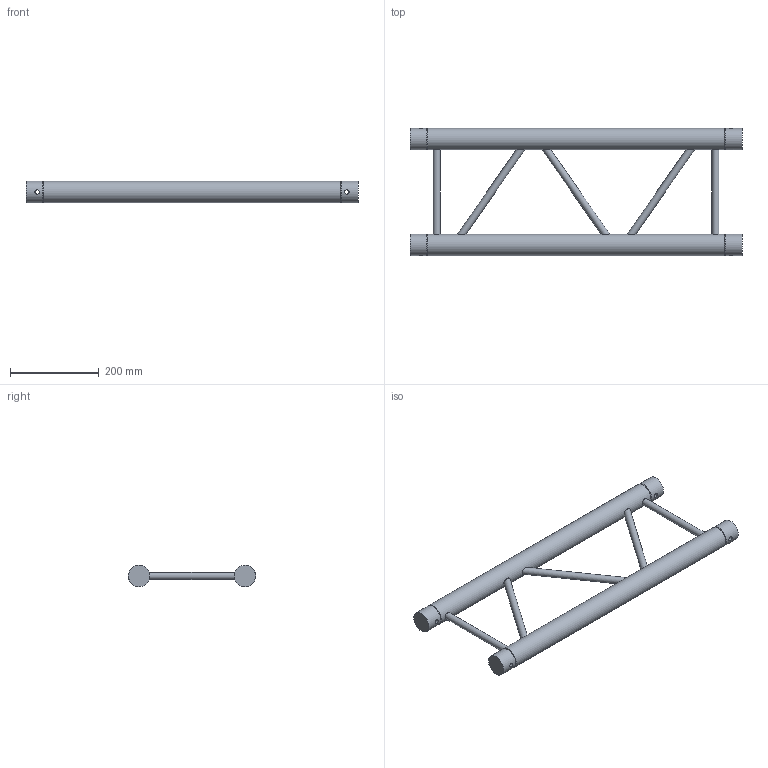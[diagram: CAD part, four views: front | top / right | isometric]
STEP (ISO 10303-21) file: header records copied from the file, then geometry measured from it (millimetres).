
FILE_DESCRIPTION(/* description */ (''),/* implementation_level */ '2;1');
FILE_NAME(/* name */ 'C:\Users\stephan\Desktop\Nieuwe map\H30L\111050040.stp',/* time_stamp */ '2016-09-12T11:47:19+02:00',/* author */ ('Stephan'),/* organization */ (''),/* preprocessor_version */ 'ST-DEVELOPER v15.6',/* originating_system */ 'Autodesk Inventor 2015',/* authorisation */ '');
FILE_SCHEMA (('AUTOMOTIVE_DESIGN { 1 0 10303 214 3 1 1 }'));
Length unit declared in the file: millimetre
Products named in the file (1): 160026966
Bounding box: 750 x 287.3 x 48.3 mm (x, y, z)
Volume: 1118245.6 mm3; surface area: 487142 mm2
Topology: 7 solids, 9 shells, 55 faces, 94 edges, 61 vertices
Faces by surface type: plane 30, cylinder 21, cone 4
Full cylindrical faces by diameter (mm): 10 x4, 16 x5, 41.8 x4, 42.3 x2, 48.3 x6
Entity records: 1555 total; most frequent: CARTESIAN_POINT 456, DIRECTION 200, ORIENTED_EDGE 132, EDGE_LOOP 100, AXIS2_PLACEMENT_3D 98, EDGE_CURVE 62, STYLED_ITEM 59, VERTEX_POINT 58
